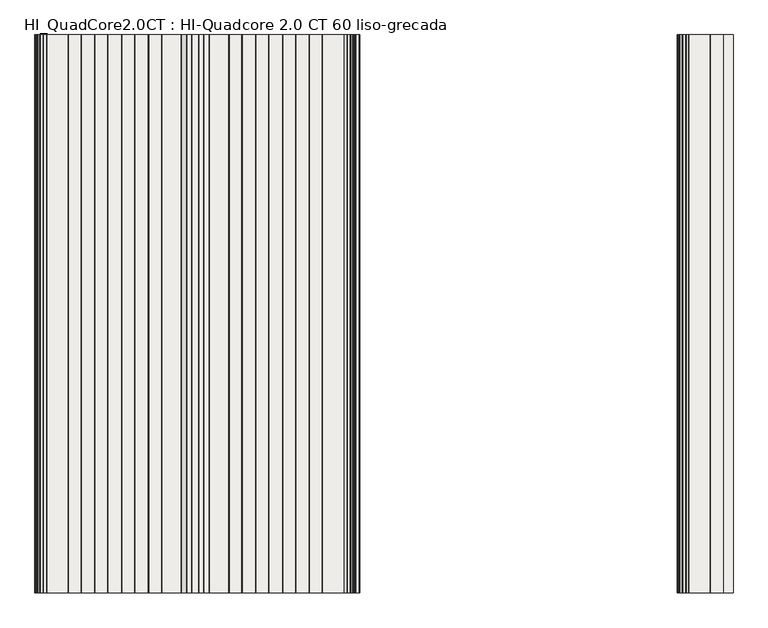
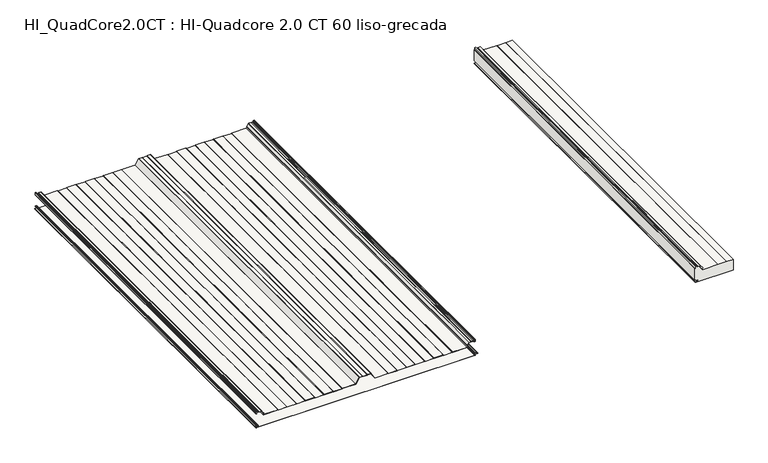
"""IFC4 building model written with IfcOpenShell, lengths in millimetres: slab geometry, HI_QuadCore2.0CT : HI-Quadcore 2.0 CT 60 liso-grecada."""

from ifc_helpers import new_model, si_unit, point, frame, frame_2d, origin, place, context, project, spatial, polyline, circle_curve, trimmed, segment, composite_curve, outline, extrude, source, transform, mapped, element, save
from ifc_brep_helpers import plane_surface, cylinder_surface, revolved_surface, advanced_brep


def hi_quadcore2_0ct_hi_quadcore_2_0_ct_60_liso_grecada_371870d8(model_context):
    return source(origin(), model_context, "Body", "SolidModel", [
        advanced_brep(
        [(2305.1475465, 0.0, 75.7425833), (2301.3824194, 0.0, 77.9163804), (2300.0, 0.0, 77.9163804), (2300.0, 0.0, 16.239302), (2307.510215, 0.0, 16.239302), (2307.510215, 0.0, 15.4391074), (2303.6125693, 0.0, 15.4391074), (2302.4319301, 0.0, 14.2584682), (2303.4276302, 0.0, 13.0866965), (2311.8278581, 0.0, 11.7547343), (2311.7995989, 0.0, 4.4809044), (2301.8467032, 0.0, 2.9844289), (2302.0100062, 0.0, 0.8), (2500.0, 0.0, 0.8), (2500.0, 0.0, 59.2), (2467.3816122, 0.0, 59.2), (2465.6495614, 0.0, 58.2), (2420.6152775, 0.0, 58.2), (2418.8832267, 0.0, 59.2), (2342.7795617, 0.0, 59.2), (2339.9577511, 0.0, 66.2744555), (2340.9081159, 0.0, 67.0692788), (2341.1089583, 0.0, 68.5361221), (2331.7709236, 0.0, 82.1230469), (2330.8643848, 0.0, 82.6), (2321.5371875, 0.0, 82.6), (2319.8324194, 0.0, 81.8110374), (2318.1276514, 0.0, 82.6), (2311.4016791, 0.0, 82.6), (2309.2490397, 0.0, 84.0383476), (2307.3922843, 0.0, 88.5209518), (2306.3760168, 0.0, 89.2), (2302.7824194, 0.0, 89.2), (2301.6824194, 0.0, 88.1), (2301.6824194, 0.0, 78.6669358), (2305.5475465, 0.0, 76.4354036), (2305.1475465, 2000.0, 75.7425833), (2305.5475465, 2000.0, 76.4354036), (2301.6824194, 2000.0, 78.6669358), (2301.6824194, 2000.0, 88.1), (2302.7824194, 2000.0, 89.2), (2306.3760168, 2000.0, 89.2), (2307.3922843, 2000.0, 88.5209518), (2309.2490397, 2000.0, 84.0383476), (2311.4016791, 2000.0, 82.6), (2318.1276514, 2000.0, 82.6), (2319.8324194, 2000.0, 81.8110374), (2321.5371875, 2000.0, 82.6), (2330.8643848, 2000.0, 82.6), (2331.7709236, 2000.0, 82.1230469), (2341.1089583, 2000.0, 68.5361221), (2340.9081159, 2000.0, 67.0692788), (2339.9577511, 2000.0, 66.2744555), (2342.7795617, 2000.0, 59.2), (2418.8832267, 2000.0, 59.2), (2420.6152775, 2000.0, 58.2), (2465.6495614, 2000.0, 58.2), (2467.3816122, 2000.0, 59.2), (2500.0, 2000.0, 59.2), (2500.0, 2000.0, 0.8), (2302.0100062, 2000.0, 0.8), (2301.8467032, 2000.0, 2.9844289), (2311.7995989, 2000.0, 4.4809044), (2311.8278581, 2000.0, 11.7547343), (2303.4273037, 2000.0, 13.0846342), (2302.4319301, 2000.0, 14.2584682), (2303.6125693, 2000.0, 15.4391074), (2307.510215, 2000.0, 15.4391074), (2307.510215, 2000.0, 16.239302), (2300.0, 2000.0, 16.239302), (2300.0, 2000.0, 77.9163804), (2301.3824194, 2000.0, 77.9163804)],
        [
            (0, 1),
            (1, 2),
            (2, 3),
            (3, 4),
            (4, 5),
            (5, 6),
            (6, 7, circle_curve(frame((2303.6125693, 0.0, 14.2584682), z_axis=(0.0, -1.0, 0.0), x_axis=(1.0, 0.0, 0.0)), 1.1806391)),
            (7, 8, circle_curve(frame((2303.6121809, 0.0, 14.2524448), z_axis=(0.0, -1.0, 0.0), x_axis=(1.0, 0.0, 0.0)), 1.1802661)),
            (8, 9),
            (9, 10, circle_curve(frame((2311.2524398, 0.0, 8.12), z_axis=(0.0, 1.0, 0.0), x_axis=(1.0, 0.0, 0.0)), 3.68)),
            (10, 11),
            (11, 12, circle_curve(frame((2302.0100062, 0.0, 1.8983185), z_axis=(0.0, -1.0, 0.0), x_axis=(1.0, 0.0, 0.0)), 1.0983185)),
            (12, 13),
            (13, 14),
            (14, 15),
            (15, 16),
            (16, 17),
            (17, 18),
            (18, 19),
            (19, 20, circle_curve(frame((2342.7795617, 0.0, 63.3), z_axis=(0.0, 1.0, 0.0), x_axis=(1.0, 0.0, 0.0)), 4.1)),
            (20, 21),
            (21, 22, circle_curve(frame((2340.2024195, 0.0, 67.9130752), z_axis=(0.0, -1.0, 0.0), x_axis=(1.0, 0.0, 0.0)), 1.1)),
            (22, 23),
            (23, 24, circle_curve(frame((2330.8643848, 0.0, 81.5), z_axis=(0.0, -1.0, 0.0), x_axis=(1.0, 0.0, 0.0)), 1.1)),
            (24, 25),
            (25, 26),
            (26, 27),
            (27, 28),
            (28, 29, circle_curve(frame((2311.4016791, 0.0, 84.93), z_axis=(0.0, 1.0, 0.0), x_axis=(1.0, 0.0, 0.0)), 2.33)),
            (29, 30),
            (30, 31, circle_curve(frame((2306.3760168, 0.0, 88.1), z_axis=(0.0, -1.0, 0.0), x_axis=(1.0, 0.0, 0.0)), 1.1)),
            (31, 32),
            (32, 33, circle_curve(frame((2302.7824194, 0.0, 88.1), z_axis=(0.0, -1.0, 0.0), x_axis=(1.0, 0.0, 0.0)), 1.1)),
            (33, 34),
            (34, 35),
            (35, 0),
            (36, 37),
            (37, 38),
            (38, 39),
            (39, 40, circle_curve(frame((2302.7824194, 2000.0, 88.1), z_axis=(0.0, 1.0, 0.0), x_axis=(1.0, 0.0, 0.0)), 1.1)),
            (40, 41),
            (41, 42, circle_curve(frame((2306.3760168, 2000.0, 88.1), z_axis=(0.0, 1.0, 0.0), x_axis=(1.0, 0.0, 0.0)), 1.1)),
            (42, 43),
            (43, 44, circle_curve(frame((2311.4016791, 2000.0, 84.93), z_axis=(0.0, -1.0, 0.0), x_axis=(1.0, 0.0, 0.0)), 2.33)),
            (44, 45),
            (45, 46),
            (46, 47),
            (47, 48),
            (48, 49, circle_curve(frame((2330.8643848, 2000.0, 81.5), z_axis=(0.0, 1.0, 0.0), x_axis=(1.0, 0.0, 0.0)), 1.1)),
            (49, 50),
            (50, 51, circle_curve(frame((2340.2024195, 2000.0, 67.9130752), z_axis=(0.0, 1.0, 0.0), x_axis=(1.0, 0.0, 0.0)), 1.1)),
            (51, 52),
            (52, 53, circle_curve(frame((2342.7795617, 2000.0, 63.3), z_axis=(0.0, -1.0, 0.0), x_axis=(1.0, 0.0, 0.0)), 4.1)),
            (53, 54),
            (54, 55),
            (55, 56),
            (56, 57),
            (57, 58),
            (58, 59),
            (59, 60),
            (60, 61, circle_curve(frame((2302.0100062, 2000.0, 1.8983185), z_axis=(0.0, 1.0, 0.0), x_axis=(1.0, 0.0, 0.0)), 1.0983185)),
            (61, 62),
            (62, 63, circle_curve(frame((2311.2524398, 2000.0, 8.12), z_axis=(0.0, -1.0, 0.0), x_axis=(1.0, 0.0, 0.0)), 3.68)),
            (63, 64),
            (64, 65, circle_curve(frame((2303.6121809, 2000.0, 14.2524448), z_axis=(0.0, 1.0, 0.0), x_axis=(1.0, 0.0, 0.0)), 1.1802661)),
            (65, 66, circle_curve(frame((2303.6125693, 2000.0, 14.2584682), z_axis=(0.0, 1.0, 0.0), x_axis=(1.0, 0.0, 0.0)), 1.1806391)),
            (66, 67),
            (67, 68),
            (68, 69),
            (69, 70),
            (70, 71),
            (71, 36),
            (0, 36),
            (71, 1),
            (70, 2),
            (69, 3),
            (57, 15),
            (14, 58),
            (56, 16),
            (55, 17),
            (54, 18),
            (53, 19),
            (52, 20),
            (51, 21),
            (50, 22),
            (49, 23),
            (48, 24),
            (47, 25),
            (46, 26),
            (45, 27),
            (44, 28),
            (43, 29),
            (42, 30),
            (41, 31),
            (40, 32),
            (39, 33),
            (38, 34),
            (37, 35),
            (68, 4),
            (67, 5),
            (66, 6),
            (65, 7),
            (64, 8),
            (63, 9),
            (62, 10),
            (61, 11),
            (60, 12),
            (59, 13),
        ],
        [
            plane_surface(frame((2301.3824194, 0.0, 77.9163804), z_axis=(0.0, -1.0, 0.0), x_axis=(-0.866025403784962, 0.0, 0.4999999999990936))),
            plane_surface(frame((2301.3824194, 2000.0, 77.9163804), z_axis=(0.0, 1.0, 0.0), x_axis=(0.866025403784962, 0.0, -0.4999999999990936))),
            plane_surface(frame((2305.1475465, 0.0, 75.7425833), z_axis=(0.4999999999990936, 0.0, 0.866025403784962), x_axis=(0.0, 1.0, 0.0))),
            plane_surface(frame((2301.3824194, 0.0, 77.9163804), z_axis=(0.0, 0.0, 1.0), x_axis=(0.0, 1.0, 0.0))),
            plane_surface(frame((2300.0, 0.0, 77.9163804), z_axis=(-1.0, 0.0, 0.0), x_axis=(0.0, 1.0, 0.0))),
            plane_surface(frame((2514.8832267, 0.0, 59.2), z_axis=(0.0, 0.0, 1.0), x_axis=(0.0, 1.0, 0.0))),
            plane_surface(frame((2467.3816122, 0.0, 59.2), z_axis=(-0.5000000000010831, 0.0, 0.8660254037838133), x_axis=(0.0, 1.0, 0.0))),
            plane_surface(frame((2465.6495614, 0.0, 58.2), z_axis=(0.0, 0.0, 1.0), x_axis=(0.0, 1.0, 0.0))),
            plane_surface(frame((2420.6152775, 0.0, 58.2), z_axis=(0.4999999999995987, 0.0, 0.8660254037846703), x_axis=(0.0, 1.0, 0.0))),
            plane_surface(frame((2418.8832267, 0.0, 59.2), z_axis=(0.0, 0.0, 1.0), x_axis=(0.0, 1.0, 0.0))),
            revolved_surface(polyline([(2346.8795617, 2000.0, 63.3), (2346.8795617, 0.0, 63.3)]), (2342.7795617, 2000.0, 63.3), (0.0, 1.0, 0.0)),
            plane_surface(frame((2339.9577511, 0.0, 66.2744555), z_axis=(0.6415422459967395, 0.0, -0.7670877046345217), x_axis=(0.0, 1.0, 0.0))),
            cylinder_surface(frame((2340.2024195, 2000.0, 67.9130752), z_axis=(0.0, -1.0, 0.0), x_axis=(1.0, 0.0, 0.0)), 1.1),
            plane_surface(frame((2341.1089583, 0.0, 68.5361221), z_axis=(0.8241261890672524, 0.0, 0.5664062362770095), x_axis=(0.0, 1.0, 0.0))),
            cylinder_surface(frame((2330.8643848, 2000.0, 81.5), z_axis=(0.0, -1.0, 0.0), x_axis=(1.0, 0.0, 0.0)), 1.1),
            plane_surface(frame((2330.8643848, 0.0, 82.6), z_axis=(0.0, 0.0, 1.0), x_axis=(0.0, 1.0, 0.0))),
            plane_surface(frame((2321.5371875, 0.0, 82.6), z_axis=(-0.41999999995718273, 0.0, 0.9075241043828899), x_axis=(0.0, 1.0, 0.0))),
            plane_surface(frame((2319.8324194, 0.0, 81.8110374), z_axis=(0.4200000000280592, 0.0, 0.9075241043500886), x_axis=(0.0, 1.0, 0.0))),
            plane_surface(frame((2318.1276514, 0.0, 82.6), z_axis=(0.0, 0.0, 1.0), x_axis=(0.0, 1.0, 0.0))),
            revolved_surface(polyline([(2313.7316791, 2000.0, 84.93), (2313.7316791, 0.0, 84.93)]), (2311.4016791, 2000.0, 84.93), (0.0, 1.0, 0.0)),
            plane_surface(frame((2309.2490397, 0.0, 84.0383476), z_axis=(0.9238795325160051, 0.0, 0.3826834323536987), x_axis=(0.0, 1.0, 0.0))),
            cylinder_surface(frame((2306.3760168, 2000.0, 88.1), z_axis=(0.0, -1.0, 0.0), x_axis=(1.0, 0.0, 0.0)), 1.1),
            plane_surface(frame((2306.3760168, 0.0, 89.2), z_axis=(0.0, 0.0, 1.0), x_axis=(0.0, 1.0, 0.0))),
            cylinder_surface(frame((2302.7824194, 2000.0, 88.1), z_axis=(0.0, -1.0, 0.0), x_axis=(1.0, 0.0, 0.0)), 1.1),
            plane_surface(frame((2301.6824194, 0.0, 88.1), z_axis=(-1.0, 0.0, 0.0), x_axis=(0.0, 1.0, 0.0))),
            plane_surface(frame((2301.6824194, 0.0, 78.6669358), z_axis=(-0.49999999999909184, 0.0, -0.866025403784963), x_axis=(0.0, 1.0, 0.0))),
            plane_surface(frame((2305.5475465, 0.0, 76.4354036), z_axis=(-0.866025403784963, 0.0, 0.4999999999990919), x_axis=(0.0, 1.0, 0.0))),
            plane_surface(frame((2300.0, 0.0, 16.239302), z_axis=(0.0, 0.0, -1.0), x_axis=(0.0, 1.0, 0.0))),
            plane_surface(frame((2307.510215, 0.0, 16.239302), z_axis=(-1.0, 0.0, 0.0), x_axis=(0.0, 1.0, 0.0))),
            plane_surface(frame((2307.510215, 0.0, 15.4391074), z_axis=(0.0, 0.0, 1.0), x_axis=(0.0, 1.0, 0.0))),
            cylinder_surface(frame((2303.6125693, 2000.0, 14.2584682), z_axis=(0.0, -1.0, 0.0), x_axis=(1.0, 0.0, 0.0)), 1.1806391),
            cylinder_surface(frame((2303.6121809, 2000.0, 14.2524448), z_axis=(0.0, -1.0, 0.0), x_axis=(1.0, 0.0, 0.0)), 1.1802661),
            plane_surface(frame((2303.4273037, 0.0, 13.0846342), z_axis=(-0.1563636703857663, 0.0, -0.9876995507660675), x_axis=(0.0, 1.0, 0.0))),
            revolved_surface(polyline([(2314.9324398, 2000.0, 8.12), (2314.9324398, 0.0, 8.12)]), (2311.2524398, 2000.0, 8.12), (0.0, 1.0, 0.0)),
            plane_surface(frame((2311.7995989, 0.0, 4.4809044), z_axis=(-0.14868453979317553, 0.0, 0.9888846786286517), x_axis=(0.0, 1.0, 0.0))),
            cylinder_surface(frame((2302.0100062, 2000.0, 1.8983185), z_axis=(0.0, -1.0, 0.0), x_axis=(1.0, 0.0, 0.0)), 1.0983185),
            plane_surface(frame((2302.0100062, 0.0, 0.8), z_axis=(0.0, 0.0, -1.0), x_axis=(0.0, 1.0, 0.0))),
            plane_surface(frame((2500.0, 0.0, 106.2714688), z_axis=(1.0, 0.0, 0.0), x_axis=(0.0, 1.0, 0.0))),
        ],
        [
            (0, [[1, 2, 3, 4, 5, 6, 7, 8, 9, 10, 11, 12, 13, 14, 15, 16, 17, 18, 19, 20, 21, 22, 23, 24, 25, 26, 27, 28, 29, 30, 31, 32, 33, 34, 35, 36]]),
            (1, [[37, 38, 39, 40, 41, 42, 43, 44, 45, 46, 47, 48, 49, 50, 51, 52, 53, 54, 55, 56, 57, 58, 59, 60, 61, 62, 63, 64, 65, 66, 67, 68, 69, 70, 71, 72]]),
            (2, [[-1, 73, -72, 74]]),
            (3, [[-2, -74, -71, 75]]),
            (4, [[-75, -70, 76, -3]]),
            (5, [[77, -15, 78, -58]]),
            (6, [[-16, -77, -57, 79]]),
            (7, [[-17, -79, -56, 80]]),
            (8, [[-18, -80, -55, 81]]),
            (9, [[-19, -81, -54, 82]]),
            (10, [[-20, -82, -53, 83]]),
            (11, [[-21, -83, -52, 84]]),
            (12, [[-22, -84, -51, 85]]),
            (13, [[-23, -85, -50, 86]]),
            (14, [[-24, -86, -49, 87]]),
            (15, [[-25, -87, -48, 88]]),
            (16, [[-26, -88, -47, 89]]),
            (17, [[-27, -89, -46, 90]]),
            (18, [[-28, -90, -45, 91]]),
            (19, [[-29, -91, -44, 92]]),
            (20, [[-30, -92, -43, 93]]),
            (21, [[-31, -93, -42, 94]]),
            (22, [[-32, -94, -41, 95]]),
            (23, [[-33, -95, -40, 96]]),
            (24, [[-34, -96, -39, 97]]),
            (25, [[-35, -97, -38, 98]]),
            (26, [[-36, -98, -37, -73]]),
            (27, [[-76, -69, 99, -4]]),
            (28, [[-5, -99, -68, 100]]),
            (29, [[-6, -100, -67, 101]]),
            (30, [[-7, -101, -66, 102]]),
            (31, [[-8, -102, -65, 103]]),
            (32, [[-9, -103, -64, 104]]),
            (33, [[-10, -104, -63, 105]]),
            (34, [[-11, -105, -62, 106]]),
            (35, [[-12, -106, -61, 107]]),
            (36, [[-107, -60, 108, -13]]),
            (37, [[-14, -108, -59, -78]]),
        ],
    ),
        advanced_brep(
        [(3.6125412, 0.0, 16.239302), (1.6320413, 0.0, 14.2588021), (3.3026044, 0.0, 12.2960661), (11.7027672, 0.0, 10.9645747), (11.6806488, 0.0, 5.2720118), (1.7277556, 0.0, 3.7755366), (2.0100062, 0.0, 0.0), (1147.9590685, 0.0, 0.0), (1150.1391392, 0.0, 2.1800708), (1152.6636211, 0.0, 5.0353254), (1160.9083654, 0.0, 6.0356531), (1160.9083654, 0.0, 10.2043469), (1150.9419234, 0.0, 11.413338), (1148.6324398, 0.0, 14.0237344), (1147.5187526, 0.0, 16.24), (1142.7624398, 0.0, 16.24), (1142.7624398, 0.0, 15.44), (1147.2282701, 0.0, 15.44), (1147.8324398, 0.0, 14.0237344), (1150.8450446, 0.0, 10.6192254), (1160.7843299, 0.0, 9.4135286), (1160.7843221, 0.0, 6.8264698), (1152.5664905, 0.0, 5.8294074), (1149.3391392, 0.0, 2.1800708), (1147.9590685, 0.0, 0.8), (2.0100062, 0.0, 0.8), (1.8467032, 0.0, 2.9844289), (11.7995989, 0.0, 4.4809044), (11.8278581, 0.0, 11.7547343), (3.4279307, 0.0, 13.084535), (2.4319301, 0.0, 14.2584682), (3.6125693, 0.0, 15.4391074), (7.510215, 0.0, 15.4391074), (7.510215, 0.0, 16.239302), (3.6125412, 2000.0, 16.239302), (7.510215, 2000.0, 16.239302), (7.510215, 2000.0, 15.4391074), (3.6125693, 2000.0, 15.4391074), (2.4319301, 2000.0, 14.2584682), (3.4276302, 2000.0, 13.0866965), (11.8278581, 2000.0, 11.7547343), (11.7995989, 2000.0, 4.4809044), (1.8467032, 2000.0, 2.9844289), (2.0100062, 2000.0, 0.8), (1147.9590685, 2000.0, 0.8), (1149.3391392, 2000.0, 2.1800708), (1152.5664905, 2000.0, 5.8294074), (1160.7843221, 2000.0, 6.8264698), (1160.7843299, 2000.0, 9.4135286), (1150.8450446, 2000.0, 10.6192254), (1147.8324398, 2000.0, 14.0237344), (1147.2282701, 2000.0, 15.44), (1142.7624398, 2000.0, 15.44), (1142.7624398, 2000.0, 16.24), (1147.5187526, 2000.0, 16.24), (1148.6324398, 2000.0, 14.0237344), (1150.9419234, 2000.0, 11.413338), (1160.9083654, 2000.0, 10.2043469), (1160.9083654, 2000.0, 6.0356531), (1152.6636211, 2000.0, 5.0353254), (1150.1391392, 2000.0, 2.1800708), (1147.9590685, 2000.0, 0.0), (2.0100062, 2000.0, 0.0), (1.7277556, 2000.0, 3.7755366), (11.6806488, 2000.0, 5.2720118), (11.7027672, 2000.0, 10.9645747), (3.3028397, 2000.0, 12.2943753), (1.6320413, 2000.0, 14.2588021)],
        [
            (0, 1, circle_curve(frame((3.6125412, 0.0, 14.2588021), z_axis=(0.0, -1.0, 0.0), x_axis=(1.0, 0.0, 0.0)), 1.9804999)),
            (1, 2, circle_curve(frame((3.612237, 0.0, 14.2519163), z_axis=(0.0, -1.0, 0.0), x_axis=(1.0, 0.0, 0.0)), 1.9802076)),
            (2, 3),
            (3, 4, circle_curve(frame((11.2524398, 0.0, 8.12), z_axis=(0.0, 1.0, 0.0), x_axis=(1.0, 0.0, 0.0)), 2.88)),
            (4, 5),
            (5, 6, circle_curve(frame((2.0100062, 0.0, 1.8983185), z_axis=(0.0, -1.0, 0.0), x_axis=(1.0, 0.0, 0.0)), 1.8983185)),
            (6, 7),
            (7, 8, circle_curve(frame((1147.9590685, 0.0, 2.1800708), z_axis=(0.0, -1.0, 0.0), x_axis=(1.0, 0.0, 0.0)), 2.1800708)),
            (8, 9, circle_curve(frame((1153.0160638, 0.0, 2.1800708), z_axis=(0.0, 1.0, 0.0), x_axis=(1.0, 0.0, 0.0)), 2.8769246)),
            (9, 10),
            (10, 11, circle_curve(frame((1160.5224398, 0.0, 8.12), z_axis=(0.0, -1.0, 0.0), x_axis=(1.0, 0.0, 0.0)), 2.1197737)),
            (11, 12),
            (12, 13, circle_curve(frame((1151.2624398, 0.0, 14.0237344), z_axis=(0.0, 1.0, 0.0), x_axis=(1.0, 0.0, 0.0)), 2.63)),
            (13, 14, circle_curve(frame((1145.8703839, 0.0, 14.0237344), z_axis=(0.0, -1.0, 0.0), x_axis=(1.0, 0.0, 0.0)), 2.7620559)),
            (14, 15),
            (15, 16),
            (16, 17),
            (17, 18, circle_curve(frame((1145.8703839, 0.0, 14.0237344), z_axis=(0.0, 1.0, 0.0), x_axis=(1.0, 0.0, 0.0)), 1.9620559)),
            (18, 19, circle_curve(frame((1151.2624398, 0.0, 14.0237344), z_axis=(0.0, -1.0, 0.0), x_axis=(1.0, 0.0, 0.0)), 3.43)),
            (19, 20),
            (20, 21, circle_curve(frame((1160.5224398, 0.0, 8.12), z_axis=(0.0, 1.0, 0.0), x_axis=(1.0, 0.0, 0.0)), 1.3197737)),
            (21, 22),
            (22, 23, circle_curve(frame((1153.0160638, 0.0, 2.1800708), z_axis=(0.0, -1.0, 0.0), x_axis=(1.0, 0.0, 0.0)), 3.6769246)),
            (23, 24, circle_curve(frame((1147.9590685, 0.0, 2.1800708), z_axis=(0.0, 1.0, 0.0), x_axis=(1.0, 0.0, 0.0)), 1.3800708)),
            (24, 25),
            (25, 26, circle_curve(frame((2.0100062, 0.0, 1.8983185), z_axis=(0.0, 1.0, 0.0), x_axis=(1.0, 0.0, 0.0)), 1.0983185)),
            (26, 27),
            (27, 28, circle_curve(frame((11.2524398, 0.0, 8.12), z_axis=(0.0, -1.0, 0.0), x_axis=(1.0, 0.0, 0.0)), 3.68)),
            (28, 29),
            (29, 30, circle_curve(frame((3.6121809, 0.0, 14.2524448), z_axis=(0.0, 1.0, 0.0), x_axis=(1.0, 0.0, 0.0)), 1.1802661)),
            (30, 31, circle_curve(frame((3.6125693, 0.0, 14.2584682), z_axis=(0.0, 1.0, 0.0), x_axis=(1.0, 0.0, 0.0)), 1.1806391)),
            (31, 32),
            (32, 33),
            (33, 0),
            (34, 35),
            (35, 36),
            (36, 37),
            (37, 38, circle_curve(frame((3.6125693, 2000.0, 14.2584682), z_axis=(0.0, -1.0, 0.0), x_axis=(1.0, 0.0, 0.0)), 1.1806391)),
            (38, 39, circle_curve(frame((3.6121809, 2000.0, 14.2524448), z_axis=(0.0, -1.0, 0.0), x_axis=(1.0, 0.0, 0.0)), 1.1802661)),
            (39, 40),
            (40, 41, circle_curve(frame((11.2524398, 2000.0, 8.12), z_axis=(0.0, 1.0, 0.0), x_axis=(1.0, 0.0, 0.0)), 3.68)),
            (41, 42),
            (42, 43, circle_curve(frame((2.0100062, 2000.0, 1.8983185), z_axis=(0.0, -1.0, 0.0), x_axis=(1.0, 0.0, 0.0)), 1.0983185)),
            (43, 44),
            (44, 45, circle_curve(frame((1147.9590685, 2000.0, 2.1800708), z_axis=(0.0, -1.0, 0.0), x_axis=(1.0, 0.0, 0.0)), 1.3800708)),
            (45, 46, circle_curve(frame((1153.0160638, 2000.0, 2.1800708), z_axis=(0.0, 1.0, 0.0), x_axis=(1.0, 0.0, 0.0)), 3.6769246)),
            (46, 47),
            (47, 48, circle_curve(frame((1160.5224398, 2000.0, 8.12), z_axis=(0.0, -1.0, 0.0), x_axis=(1.0, 0.0, 0.0)), 1.3197737)),
            (48, 49),
            (49, 50, circle_curve(frame((1151.2624398, 2000.0, 14.0237344), z_axis=(0.0, 1.0, 0.0), x_axis=(1.0, 0.0, 0.0)), 3.43)),
            (50, 51, circle_curve(frame((1145.8703839, 2000.0, 14.0237344), z_axis=(0.0, -1.0, 0.0), x_axis=(1.0, 0.0, 0.0)), 1.9620559)),
            (51, 52),
            (52, 53),
            (53, 54),
            (54, 55, circle_curve(frame((1145.8703839, 2000.0, 14.0237344), z_axis=(0.0, 1.0, 0.0), x_axis=(1.0, 0.0, 0.0)), 2.7620559)),
            (55, 56, circle_curve(frame((1151.2624398, 2000.0, 14.0237344), z_axis=(0.0, -1.0, 0.0), x_axis=(1.0, 0.0, 0.0)), 2.63)),
            (56, 57),
            (57, 58, circle_curve(frame((1160.5224398, 2000.0, 8.12), z_axis=(0.0, 1.0, 0.0), x_axis=(1.0, 0.0, 0.0)), 2.1197737)),
            (58, 59),
            (59, 60, circle_curve(frame((1153.0160638, 2000.0, 2.1800708), z_axis=(0.0, -1.0, 0.0), x_axis=(1.0, 0.0, 0.0)), 2.8769246)),
            (60, 61, circle_curve(frame((1147.9590685, 2000.0, 2.1800708), z_axis=(0.0, 1.0, 0.0), x_axis=(1.0, 0.0, 0.0)), 2.1800708)),
            (61, 62),
            (62, 63, circle_curve(frame((2.0100062, 2000.0, 1.8983185), z_axis=(0.0, 1.0, 0.0), x_axis=(1.0, 0.0, 0.0)), 1.8983185)),
            (63, 64),
            (64, 65, circle_curve(frame((11.2524398, 2000.0, 8.12), z_axis=(0.0, -1.0, 0.0), x_axis=(1.0, 0.0, 0.0)), 2.88)),
            (65, 66),
            (66, 67, circle_curve(frame((3.612237, 2000.0, 14.2519163), z_axis=(0.0, 1.0, 0.0), x_axis=(1.0, 0.0, 0.0)), 1.9802076)),
            (67, 34, circle_curve(frame((3.6125412, 2000.0, 14.2588021), z_axis=(0.0, 1.0, 0.0), x_axis=(1.0, 0.0, 0.0)), 1.9804999)),
            (0, 34),
            (67, 1),
            (66, 2),
            (65, 3),
            (64, 4),
            (63, 5),
            (62, 6),
            (61, 7),
            (60, 8),
            (59, 9),
            (58, 10),
            (57, 11),
            (56, 12),
            (55, 13),
            (54, 14),
            (53, 15),
            (52, 16),
            (51, 17),
            (50, 18),
            (49, 19),
            (48, 20),
            (47, 21),
            (46, 22),
            (45, 23),
            (44, 24),
            (43, 25),
            (42, 26),
            (41, 27),
            (40, 28),
            (39, 29),
            (38, 30),
            (37, 31),
            (36, 32),
            (35, 33),
        ],
        [
            plane_surface(frame((5.5930411, 0.0, 14.2588021), z_axis=(0.0, -1.0, 0.0), x_axis=(0.0, 0.0, 1.0))),
            plane_surface(frame((5.5930411, 2000.0, 14.2588021), z_axis=(0.0, 1.0, 0.0), x_axis=(0.0, 0.0, -1.0))),
            cylinder_surface(frame((3.6125412, 2000.0, 14.2588021), z_axis=(0.0, -1.0, 0.0), x_axis=(1.0, 0.0, 0.0)), 1.9804999),
            cylinder_surface(frame((3.612237, 2000.0, 14.2519163), z_axis=(0.0, -1.0, 0.0), x_axis=(1.0, 0.0, 0.0)), 1.9802076),
            plane_surface(frame((3.3028397, 0.0, 12.2943753), z_axis=(-0.15636367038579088, 0.0, -0.9876995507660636), x_axis=(0.0, 1.0, 0.0))),
            revolved_surface(polyline([(14.1324398, 2000.0, 8.12), (14.1324398, 0.0, 8.12)]), (11.2524398, 2000.0, 8.12), (0.0, 1.0, 0.0)),
            plane_surface(frame((11.6806488, 0.0, 5.2720118), z_axis=(-0.14868453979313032, 0.0, 0.9888846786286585), x_axis=(0.0, 1.0, 0.0))),
            cylinder_surface(frame((2.0100062, 2000.0, 1.8983185), z_axis=(0.0, -1.0, 0.0), x_axis=(1.0, 0.0, 0.0)), 1.8983185),
            plane_surface(frame((2.0100062, 0.0, 0.0), z_axis=(0.0, 0.0, -1.0), x_axis=(0.0, 1.0, 0.0))),
            cylinder_surface(frame((1147.9590685, 2000.0, 2.1800708), z_axis=(0.0, -1.0, 0.0), x_axis=(1.0, 0.0, 0.0)), 2.1800708),
            revolved_surface(polyline([(1155.8929884, 2000.0, 2.1800708), (1155.8929884, 0.0, 2.1800708)]), (1153.0160638, 2000.0, 2.1800708), (0.0, 1.0, 0.0)),
            plane_surface(frame((1152.6636211, 0.0, 5.0353254), z_axis=(0.12044584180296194, 0.0, -0.9927198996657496), x_axis=(0.0, 1.0, 0.0))),
            cylinder_surface(frame((1160.5224398, 2000.0, 8.12), z_axis=(0.0, -1.0, 0.0), x_axis=(1.0, 0.0, 0.0)), 2.1197737),
            plane_surface(frame((1160.9083654, 0.0, 10.2043469), z_axis=(0.12042339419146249, 0.0, 0.9927226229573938), x_axis=(0.0, 1.0, 0.0))),
            revolved_surface(polyline([(1153.8924398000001, 2000.0, 14.0237344), (1153.8924398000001, 0.0, 14.0237344)]), (1151.2624398, 2000.0, 14.0237344), (0.0, 1.0, 0.0)),
            cylinder_surface(frame((1145.8703839, 2000.0, 14.0237344), z_axis=(0.0, -1.0, 0.0), x_axis=(1.0, 0.0, 0.0)), 2.7620559),
            plane_surface(frame((1147.5187526, 0.0, 16.24), z_axis=(0.0, 0.0, 1.0), x_axis=(0.0, 1.0, 0.0))),
            plane_surface(frame((1142.7624398, 0.0, 16.24), z_axis=(-1.0, 0.0, 0.0), x_axis=(0.0, 1.0, 0.0))),
            plane_surface(frame((1142.7624398, 0.0, 15.44), z_axis=(0.0, 0.0, -1.0), x_axis=(0.0, 1.0, 0.0))),
            revolved_surface(polyline([(1147.8324398, 2000.0, 14.0237344), (1147.8324398, 0.0, 14.0237344)]), (1145.8703839, 2000.0, 14.0237344), (0.0, 1.0, 0.0)),
            cylinder_surface(frame((1151.2624398, 2000.0, 14.0237344), z_axis=(0.0, -1.0, 0.0), x_axis=(1.0, 0.0, 0.0)), 3.43),
            plane_surface(frame((1150.8450446, 0.0, 10.6192254), z_axis=(-0.12042339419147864, 0.0, -0.9927226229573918), x_axis=(0.0, 1.0, 0.0))),
            revolved_surface(polyline([(1161.8422135, 2000.0, 8.12), (1161.8422135, 0.0, 8.12)]), (1160.5224398, 2000.0, 8.12), (0.0, 1.0, 0.0)),
            plane_surface(frame((1160.7843221, 0.0, 6.8264698), z_axis=(-0.12044584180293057, 0.0, 0.9927198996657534), x_axis=(0.0, 1.0, 0.0))),
            cylinder_surface(frame((1153.0160638, 2000.0, 2.1800708), z_axis=(0.0, -1.0, 0.0), x_axis=(1.0, 0.0, 0.0)), 3.6769246),
            revolved_surface(polyline([(1149.3391393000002, 2000.0, 2.1800708), (1149.3391393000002, 0.0, 2.1800708)]), (1147.9590685, 2000.0, 2.1800708), (0.0, 1.0, 0.0)),
            plane_surface(frame((1147.9590685, 0.0, 0.8), z_axis=(0.0, 0.0, 1.0), x_axis=(0.0, 1.0, 0.0))),
            revolved_surface(polyline([(3.1083247, 2000.0, 1.8983185), (3.1083247, 0.0, 1.8983185)]), (2.0100062, 2000.0, 1.8983185), (0.0, 1.0, 0.0)),
            plane_surface(frame((1.8467032, 0.0, 2.9844289), z_axis=(0.14868453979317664, 0.0, -0.9888846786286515), x_axis=(0.0, 1.0, 0.0))),
            cylinder_surface(frame((11.2524398, 2000.0, 8.12), z_axis=(0.0, -1.0, 0.0), x_axis=(1.0, 0.0, 0.0)), 3.68),
            plane_surface(frame((11.8278581, 0.0, 11.7547343), z_axis=(0.15636367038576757, 0.0, 0.9876995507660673), x_axis=(0.0, 1.0, 0.0))),
            revolved_surface(polyline([(4.792447, 2000.0, 14.2524448), (4.792447, 0.0, 14.2524448)]), (3.6121809, 2000.0, 14.2524448), (0.0, 1.0, 0.0)),
            revolved_surface(polyline([(4.7932084, 2000.0, 14.2584682), (4.7932084, 0.0, 14.2584682)]), (3.6125693, 2000.0, 14.2584682), (0.0, 1.0, 0.0)),
            plane_surface(frame((3.6125693, 0.0, 15.4391074), z_axis=(0.0, 0.0, -1.0), x_axis=(0.0, 1.0, 0.0))),
            plane_surface(frame((7.510215, 0.0, 15.4391074), z_axis=(1.0, 0.0, 0.0), x_axis=(0.0, 1.0, 0.0))),
            plane_surface(frame((7.510215, 0.0, 16.239302), z_axis=(0.0, 0.0, 1.0), x_axis=(0.0, 1.0, 0.0))),
        ],
        [
            (0, [[1, 2, 3, 4, 5, 6, 7, 8, 9, 10, 11, 12, 13, 14, 15, 16, 17, 18, 19, 20, 21, 22, 23, 24, 25, 26, 27, 28, 29, 30, 31, 32, 33, 34]]),
            (1, [[35, 36, 37, 38, 39, 40, 41, 42, 43, 44, 45, 46, 47, 48, 49, 50, 51, 52, 53, 54, 55, 56, 57, 58, 59, 60, 61, 62, 63, 64, 65, 66, 67, 68]]),
            (2, [[-1, 69, -68, 70]]),
            (3, [[-2, -70, -67, 71]]),
            (4, [[-3, -71, -66, 72]]),
            (5, [[-4, -72, -65, 73]]),
            (6, [[-5, -73, -64, 74]]),
            (7, [[-6, -74, -63, 75]]),
            (8, [[-7, -75, -62, 76]]),
            (9, [[-8, -76, -61, 77]]),
            (10, [[-9, -77, -60, 78]]),
            (11, [[-10, -78, -59, 79]]),
            (12, [[-11, -79, -58, 80]]),
            (13, [[-12, -80, -57, 81]]),
            (14, [[-13, -81, -56, 82]]),
            (15, [[-14, -82, -55, 83]]),
            (16, [[-15, -83, -54, 84]]),
            (17, [[-16, -84, -53, 85]]),
            (18, [[-17, -85, -52, 86]]),
            (19, [[-18, -86, -51, 87]]),
            (20, [[-19, -87, -50, 88]]),
            (21, [[-20, -88, -49, 89]]),
            (22, [[-21, -89, -48, 90]]),
            (23, [[-22, -90, -47, 91]]),
            (24, [[-23, -91, -46, 92]]),
            (25, [[-24, -92, -45, 93]]),
            (26, [[-25, -93, -44, 94]]),
            (27, [[-26, -94, -43, 95]]),
            (28, [[-27, -95, -42, 96]]),
            (29, [[-28, -96, -41, 97]]),
            (30, [[-29, -97, -40, 98]]),
            (31, [[-30, -98, -39, 99]]),
            (32, [[-31, -99, -38, 100]]),
            (33, [[-32, -100, -37, 101]]),
            (34, [[-33, -101, -36, 102]]),
            (35, [[-34, -102, -35, -69]]),
        ],
    ),
        extrude(outline(composite_curve([segment(polyline([(77.9163804, 1.3824194), (75.7425833, 5.1475465), (76.4354036, 5.5475465), (78.6669358, 1.6824194), (88.1, 1.6824194)]), True, "CONTINUOUS"), segment(trimmed(circle_curve(frame_2d((88.1, 2.7824194)), 1.1), [point((88.1, 1.6824194))], [point((89.2, 2.7824194))], True, "CARTESIAN"), True, "CONTINUOUS"), segment(polyline([(89.2, 2.7824194), (89.2, 6.3760168)]), True, "CONTINUOUS"), segment(trimmed(circle_curve(frame_2d((88.1, 6.3760168)), 1.1), [point((89.2, 6.3760168))], [point((88.5209518, 7.3922843))], True, "CARTESIAN"), True, "CONTINUOUS"), segment(polyline([(88.5209518, 7.3922843), (84.0383476, 9.2490397)]), True, "CONTINUOUS"), segment(trimmed(circle_curve(frame_2d((84.93, 11.4016791)), 2.33), [point((84.0383476, 9.2490397))], [point((82.6, 11.4016791))], False, "CARTESIAN"), True, "CONTINUOUS"), segment(polyline([(82.6, 11.4016791), (82.6, 18.1276514), (81.8110374, 19.8324194), (82.6, 21.5371875), (82.6, 30.8643848)]), True, "CONTINUOUS"), segment(trimmed(circle_curve(frame_2d((81.5, 30.8643848)), 1.1), [point((82.6, 30.8643848))], [point((82.1230469, 31.7709236))], True, "CARTESIAN"), True, "CONTINUOUS"), segment(polyline([(82.1230469, 31.7709236), (68.5361221, 41.1089583)]), True, "CONTINUOUS"), segment(trimmed(circle_curve(frame_2d((67.9130752, 40.2024195)), 1.1), [point((68.5361221, 41.1089583))], [point((67.0692788, 40.9081159))], True, "CARTESIAN"), True, "CONTINUOUS"), segment(polyline([(67.0692788, 40.9081159), (66.2744555, 39.9577511)]), True, "CONTINUOUS"), segment(trimmed(circle_curve(frame_2d((63.3, 42.7795617)), 4.1), [point((66.2744555, 39.9577511))], [point((59.2, 42.7795617))], False, "CARTESIAN"), True, "CONTINUOUS"), segment(polyline([(59.2, 42.7795617), (59.2, 118.8832267), (58.2, 120.6152775), (58.2, 165.6495614), (59.2, 167.3816122), (59.2, 214.8832267), (58.2, 216.6152775), (58.2, 261.6495614), (59.2, 263.3816122), (59.2, 310.8832267), (58.2, 312.6152775), (58.2, 357.6495614), (59.2, 359.3816122), (59.2, 406.8832267), (58.2, 408.6152775), (58.2, 453.6495614), (59.2, 455.3816122), (59.2, 524.3619266)]), True, "CONTINUOUS"), segment(trimmed(circle_curve(frame_2d((61.53, 524.3619266)), 2.33), [point((59.2, 524.3619266))], [point((60.2833287, 526.330355))], False, "CARTESIAN"), True, "CONTINUOUS"), segment(polyline([(60.2833287, 526.330355), (88.6885573, 544.3203331)]), True, "CONTINUOUS"), segment(trimmed(circle_curve(frame_2d((88.1, 545.2496341)), 1.1), [point((88.6885573, 544.3203331))], [point((89.2, 545.2496341))], True, "CARTESIAN"), True, "CONTINUOUS"), segment(polyline([(89.2, 545.2496341), (89.2, 561.3832267), (87.7, 563.9813029), (87.7, 586.283536), (89.2, 588.8816122), (89.2, 605.0152048)]), True, "CONTINUOUS"), segment(trimmed(circle_curve(frame_2d((88.1, 605.0152048)), 1.1), [point((89.2, 605.0152048))], [point((88.6885573, 605.9445057))], True, "CARTESIAN"), True, "CONTINUOUS"), segment(polyline([(88.6885573, 605.9445057), (60.2833287, 623.9344839)]), True, "CONTINUOUS"), segment(trimmed(circle_curve(frame_2d((61.53, 625.9029123)), 2.33), [point((60.2833287, 623.9344839))], [point((59.2, 625.9029123))], False, "CARTESIAN"), True, "CONTINUOUS"), segment(polyline([(59.2, 625.9029123), (59.2, 694.8832267), (58.2, 696.6152775), (58.2, 741.6495614), (59.2, 743.3816122), (59.2, 790.8832267), (58.2, 792.6152775), (58.2, 837.6495614), (59.2, 839.3816122), (59.2, 886.8832267), (58.2, 888.6152775), (58.2, 933.6495614), (59.2, 935.3816122), (59.2, 982.8832267), (58.2, 984.6152775), (58.2, 1029.6495614), (59.2, 1031.3816122), (59.2, 1107.4852773)]), True, "CONTINUOUS"), segment(trimmed(circle_curve(frame_2d((63.3, 1107.4852773)), 4.1), [point((59.2, 1107.4852773))], [point((66.2744554, 1110.3070878))], False, "CARTESIAN"), True, "CONTINUOUS"), segment(polyline([(66.2744554, 1110.3070878), (67.0692788, 1109.356723)]), True, "CONTINUOUS"), segment(trimmed(circle_curve(frame_2d((67.9130753, 1110.0624194)), 1.1), [point((67.0692788, 1109.356723))], [point((68.5361221, 1109.1558806))], True, "CARTESIAN"), True, "CONTINUOUS"), segment(polyline([(68.5361221, 1109.1558806), (82.1230469, 1118.4939153)]), True, "CONTINUOUS"), segment(trimmed(circle_curve(frame_2d((81.5, 1119.4004541)), 1.1), [point((82.1230469, 1118.4939153))], [point((82.6, 1119.4004541))], True, "CARTESIAN"), True, "CONTINUOUS"), segment(polyline([(82.6, 1119.4004541), (82.6, 1128.7276514), (81.8110374, 1130.4324194), (82.6, 1132.1371875), (82.6, 1138.8631598)]), True, "CONTINUOUS"), segment(trimmed(circle_curve(frame_2d((84.93, 1138.8631598)), 2.33), [point((82.6, 1138.8631598))], [point((84.0383476, 1141.0157992))], False, "CARTESIAN"), True, "CONTINUOUS"), segment(polyline([(84.0383476, 1141.0157992), (88.5209518, 1142.8725546)]), True, "CONTINUOUS"), segment(trimmed(circle_curve(frame_2d((88.1, 1143.8888221)), 1.1), [point((88.5209518, 1142.8725546))], [point((89.2, 1143.8888221))], True, "CARTESIAN"), True, "CONTINUOUS"), segment(polyline([(89.2, 1143.8888221), (89.2, 1147.4824194)]), True, "CONTINUOUS"), segment(trimmed(circle_curve(frame_2d((88.1, 1147.4824194)), 1.1), [point((89.2, 1147.4824194))], [point((88.1, 1148.5824194))], True, "CARTESIAN"), True, "CONTINUOUS"), segment(polyline([(88.1, 1148.5824194), (78.6669358, 1148.5824194), (76.4354036, 1144.7172924), (75.7425833, 1145.1172924), (77.9163804, 1148.8824194)]), True, "CONTINUOUS"), segment(trimmed(circle_curve(frame_2d((78.7824058, 1148.3824194)), 1.0), [point((77.9163804, 1148.8824194))], [point((78.7824058, 1149.3824194))], False, "CARTESIAN"), True, "CONTINUOUS"), segment(polyline([(78.7824058, 1149.3824194), (88.1, 1149.3824194)]), True, "CONTINUOUS"), segment(trimmed(circle_curve(frame_2d((88.1, 1147.4824194)), 1.9), [point((88.1, 1149.3824194))], [point((90.0, 1147.4824194))], False, "CARTESIAN"), True, "CONTINUOUS"), segment(polyline([(90.0, 1147.4824194), (90.0, 1143.8888221)]), True, "CONTINUOUS"), segment(trimmed(circle_curve(frame_2d((88.1, 1143.8888221)), 1.9), [point((90.0, 1143.8888221))], [point((88.8270985, 1142.133451))], False, "CARTESIAN"), True, "CONTINUOUS"), segment(polyline([(88.8270985, 1142.133451), (84.3444944, 1140.2766955)]), True, "CONTINUOUS"), segment(trimmed(circle_curve(frame_2d((84.93, 1138.8631598)), 1.53), [point((84.3444944, 1140.2766955))], [point((83.4, 1138.8631598))], True, "CARTESIAN"), True, "CONTINUOUS"), segment(polyline([(83.4, 1138.8631598), (83.4, 1131.9610429), (82.6925567, 1130.4324194), (83.4, 1128.903796), (83.4, 1119.4004541)]), True, "CONTINUOUS"), segment(trimmed(circle_curve(frame_2d((81.5, 1119.4004541)), 1.9), [point((83.4, 1119.4004541))], [point((82.5761719, 1117.8346144))], False, "CARTESIAN"), True, "CONTINUOUS"), segment(polyline([(82.5761719, 1117.8346144), (68.9892471, 1108.4965797)]), True, "CONTINUOUS"), segment(trimmed(circle_curve(frame_2d((67.9130753, 1110.0624194)), 1.9), [point((68.9892471, 1108.4965797))], [point((66.4556086, 1108.8434892))], False, "CARTESIAN"), True, "CONTINUOUS"), segment(polyline([(66.4556086, 1108.8434892), (65.6777166, 1109.7736094)]), True, "CONTINUOUS"), segment(trimmed(circle_curve(frame_2d((63.3, 1107.4852773)), 3.3), [point((65.6777166, 1109.7736094))], [point((60.0, 1107.4852773))], True, "CARTESIAN"), True, "CONTINUOUS"), segment(polyline([(60.0, 1107.4852773), (60.0, 1031.5691766)]), True, "CONTINUOUS"), segment(trimmed(circle_curve(frame_2d((58.5, 1031.5691766)), 1.5), [point((60.0, 1031.5691766))], [point((59.7990381, 1030.8191766))], False, "CARTESIAN"), True, "CONTINUOUS"), segment(polyline([(59.7990381, 1030.8191766), (59.0, 1029.435202), (59.0, 984.8296369), (59.7990381, 983.4456623)]), True, "CONTINUOUS"), segment(trimmed(circle_curve(frame_2d((58.5, 982.6956623)), 1.5), [point((59.7990381, 983.4456623))], [point((60.0, 982.6956623))], False, "CARTESIAN"), True, "CONTINUOUS"), segment(polyline([(60.0, 982.6956623), (60.0, 935.5691766)]), True, "CONTINUOUS"), segment(trimmed(circle_curve(frame_2d((58.5, 935.5691766)), 1.5), [point((60.0, 935.5691766))], [point((59.7990381, 934.8191766))], False, "CARTESIAN"), True, "CONTINUOUS"), segment(polyline([(59.7990381, 934.8191766), (59.0, 933.435202), (59.0, 888.8296369), (59.7990381, 887.4456623)]), True, "CONTINUOUS"), segment(trimmed(circle_curve(frame_2d((58.5, 886.6956623)), 1.5), [point((59.7990381, 887.4456623))], [point((60.0, 886.6956623))], False, "CARTESIAN"), True, "CONTINUOUS"), segment(polyline([(60.0, 886.6956623), (60.0, 839.5691766)]), True, "CONTINUOUS"), segment(trimmed(circle_curve(frame_2d((58.5, 839.5691766)), 1.5), [point((60.0, 839.5691766))], [point((59.7990381, 838.8191766))], False, "CARTESIAN"), True, "CONTINUOUS"), segment(polyline([(59.7990381, 838.8191766), (59.0, 837.435202), (59.0, 792.8296369), (59.7990381, 791.4456623)]), True, "CONTINUOUS"), segment(trimmed(circle_curve(frame_2d((58.5, 790.6956623)), 1.5), [point((59.7990381, 791.4456623))], [point((60.0, 790.6956623))], False, "CARTESIAN"), True, "CONTINUOUS"), segment(polyline([(60.0, 790.6956623), (60.0, 743.5691766)]), True, "CONTINUOUS"), segment(trimmed(circle_curve(frame_2d((58.5, 743.5691766)), 1.5), [point((60.0, 743.5691766))], [point((59.7990381, 742.8191766))], False, "CARTESIAN"), True, "CONTINUOUS"), segment(polyline([(59.7990381, 742.8191766), (59.0, 741.435202), (59.0, 696.8296369), (59.7990381, 695.4456623)]), True, "CONTINUOUS"), segment(trimmed(circle_curve(frame_2d((58.5, 694.6956623)), 1.5), [point((59.7990381, 695.4456623))], [point((60.0, 694.6956623))], False, "CARTESIAN"), True, "CONTINUOUS"), segment(polyline([(60.0, 694.6956623), (60.0, 625.9029123)]), True, "CONTINUOUS"), segment(trimmed(circle_curve(frame_2d((61.53, 625.9029123)), 1.53), [point((60.0, 625.9029123))], [point((60.7113703, 624.6103391))], True, "CARTESIAN"), True, "CONTINUOUS"), segment(polyline([(60.7113703, 624.6103391), (89.116599, 606.620361)]), True, "CONTINUOUS"), segment(trimmed(circle_curve(frame_2d((88.1, 605.0152048)), 1.9), [point((89.116599, 606.620361))], [point((90.0, 605.0152048))], False, "CARTESIAN"), True, "CONTINUOUS"), segment(polyline([(90.0, 605.0152048), (90.0, 588.6672528), (88.5, 586.0691766), (88.5, 564.1956623), (90.0, 561.5975861), (90.0, 545.2496341)]), True, "CONTINUOUS"), segment(trimmed(circle_curve(frame_2d((88.1, 545.2496341)), 1.9), [point((90.0, 545.2496341))], [point((89.116599, 543.6444779))], False, "CARTESIAN"), True, "CONTINUOUS"), segment(polyline([(89.116599, 543.6444779), (60.7113703, 525.6544998)]), True, "CONTINUOUS"), segment(trimmed(circle_curve(frame_2d((61.53, 524.3619266)), 1.53), [point((60.7113703, 525.6544998))], [point((60.0, 524.3619266))], True, "CARTESIAN"), True, "CONTINUOUS"), segment(polyline([(60.0, 524.3619266), (60.0, 455.5691766)]), True, "CONTINUOUS"), segment(trimmed(circle_curve(frame_2d((58.5, 455.5691766)), 1.5), [point((60.0, 455.5691766))], [point((59.7990381, 454.8191766))], False, "CARTESIAN"), True, "CONTINUOUS"), segment(polyline([(59.7990381, 454.8191766), (59.0, 453.435202), (59.0, 408.8296369), (59.7990381, 407.4456623)]), True, "CONTINUOUS"), segment(trimmed(circle_curve(frame_2d((58.5, 406.6956623)), 1.5), [point((59.7990381, 407.4456623))], [point((60.0, 406.6956623))], False, "CARTESIAN"), True, "CONTINUOUS"), segment(polyline([(60.0, 406.6956623), (60.0, 359.5691766)]), True, "CONTINUOUS"), segment(trimmed(circle_curve(frame_2d((58.5, 359.5691766)), 1.5), [point((60.0, 359.5691766))], [point((59.7990381, 358.8191766))], False, "CARTESIAN"), True, "CONTINUOUS"), segment(polyline([(59.7990381, 358.8191766), (59.0, 357.435202), (59.0, 312.8296369), (59.7990381, 311.4456623)]), True, "CONTINUOUS"), segment(trimmed(circle_curve(frame_2d((58.5, 310.6956623)), 1.5), [point((59.7990381, 311.4456623))], [point((60.0, 310.6956623))], False, "CARTESIAN"), True, "CONTINUOUS"), segment(polyline([(60.0, 310.6956623), (60.0, 263.5691766)]), True, "CONTINUOUS"), segment(trimmed(circle_curve(frame_2d((58.5, 263.5691766)), 1.5), [point((60.0, 263.5691766))], [point((59.7990381, 262.8191766))], False, "CARTESIAN"), True, "CONTINUOUS"), segment(polyline([(59.7990381, 262.8191766), (59.0, 261.435202), (59.0, 216.8296369), (59.7990381, 215.4456623)]), True, "CONTINUOUS"), segment(trimmed(circle_curve(frame_2d((58.5, 214.6956623)), 1.5), [point((59.7990381, 215.4456623))], [point((60.0, 214.6956623))], False, "CARTESIAN"), True, "CONTINUOUS"), segment(polyline([(60.0, 214.6956623), (60.0, 167.5691766)]), True, "CONTINUOUS"), segment(trimmed(circle_curve(frame_2d((58.5, 167.5691766)), 1.5), [point((60.0, 167.5691766))], [point((59.7990381, 166.8191766))], False, "CARTESIAN"), True, "CONTINUOUS"), segment(polyline([(59.7990381, 166.8191766), (59.0, 165.435202), (59.0, 120.8296369), (59.7990381, 119.4456623)]), True, "CONTINUOUS"), segment(trimmed(circle_curve(frame_2d((58.5, 118.6956623)), 1.5), [point((59.7990381, 119.4456623))], [point((60.0, 118.6956623))], False, "CARTESIAN"), True, "CONTINUOUS"), segment(polyline([(60.0, 118.6956623), (60.0, 42.7795617)]), True, "CONTINUOUS"), segment(trimmed(circle_curve(frame_2d((63.3, 42.7795617)), 3.3), [point((60.0, 42.7795617))], [point((65.6777166, 40.4912296))], True, "CARTESIAN"), True, "CONTINUOUS"), segment(polyline([(65.6777166, 40.4912296), (66.4556086, 41.4213497)]), True, "CONTINUOUS"), segment(trimmed(circle_curve(frame_2d((67.9130752, 40.2024195)), 1.9), [point((66.4556086, 41.4213497))], [point((68.9892471, 41.7682592))], False, "CARTESIAN"), True, "CONTINUOUS"), segment(polyline([(68.9892471, 41.7682592), (82.5761719, 32.4302246)]), True, "CONTINUOUS"), segment(trimmed(circle_curve(frame_2d((81.5, 30.8643848)), 1.9), [point((82.5761719, 32.4302246))], [point((83.4, 30.8643848))], False, "CARTESIAN"), True, "CONTINUOUS"), segment(polyline([(83.4, 30.8643848), (83.4, 21.3610429), (82.6925567, 19.8324194), (83.4, 18.303796), (83.4, 11.4016791)]), True, "CONTINUOUS"), segment(trimmed(circle_curve(frame_2d((84.93, 11.4016791)), 1.53), [point((83.4, 11.4016791))], [point((84.3444944, 9.9881434))], True, "CARTESIAN"), True, "CONTINUOUS"), segment(polyline([(84.3444944, 9.9881434), (88.8270985, 8.1313879)]), True, "CONTINUOUS"), segment(trimmed(circle_curve(frame_2d((88.1, 6.3760168)), 1.9), [point((88.8270985, 8.1313879))], [point((90.0, 6.3760168))], False, "CARTESIAN"), True, "CONTINUOUS"), segment(polyline([(90.0, 6.3760168), (90.0, 2.7824194)]), True, "CONTINUOUS"), segment(trimmed(circle_curve(frame_2d((88.1, 2.7824194)), 1.9), [point((90.0, 2.7824194))], [point((88.1, 0.8824194))], False, "CARTESIAN"), True, "CONTINUOUS"), segment(polyline([(88.1, 0.8824194), (78.7824058, 0.8824194)]), True, "CONTINUOUS"), segment(trimmed(circle_curve(frame_2d((78.7824058, 1.8824194)), 1.0), [point((78.7824058, 0.8824194))], [point((77.9163804, 1.3824194))], False, "CARTESIAN"), True, "CONTINUOUS")], self_intersect=False)), frame((0.0, 0.0, 0.0), z_axis=(0.0, 1.0, 0.0), x_axis=(0.0, 0.0, 1.0)), (0.0, 0.0, 1.0), 2000.0),
    ])


if __name__ == "__main__":
    model = new_model("IFC4")
    model_context = context("Model", 3, world=origin())
    ifc_project = project(units=[si_unit("LENGTHUNIT", "METRE", prefix="MILLI")], contexts=[model_context])
    site = spatial("IfcSite", under=ifc_project)
    building = spatial("IfcBuilding", under=site)
    placement = place(None, origin())
    hi_quadcore2_0ct_hi_quadcore_2_0_ct_60_liso_grecada_shape = hi_quadcore2_0ct_hi_quadcore_2_0_ct_60_liso_grecada_371870d8(model_context)
    element("IfcSlab", 1, ObjectType="HI_QuadCore2.0CT : HI-Quadcore 2.0 CT 60 liso-grecada", at=placement, inside=building, context=model_context, shape_type="MappedRepresentation", body=[
        mapped(hi_quadcore2_0ct_hi_quadcore_2_0_ct_60_liso_grecada_shape, transform((0.0, 0.0, 0.0), x_axis=(1.0, 0.0, 0.0), y_axis=(0.0, 1.0, 0.0), z_axis=(0.0, 0.0, 1.0))),
    ])
    save(model, "model.ifc")
